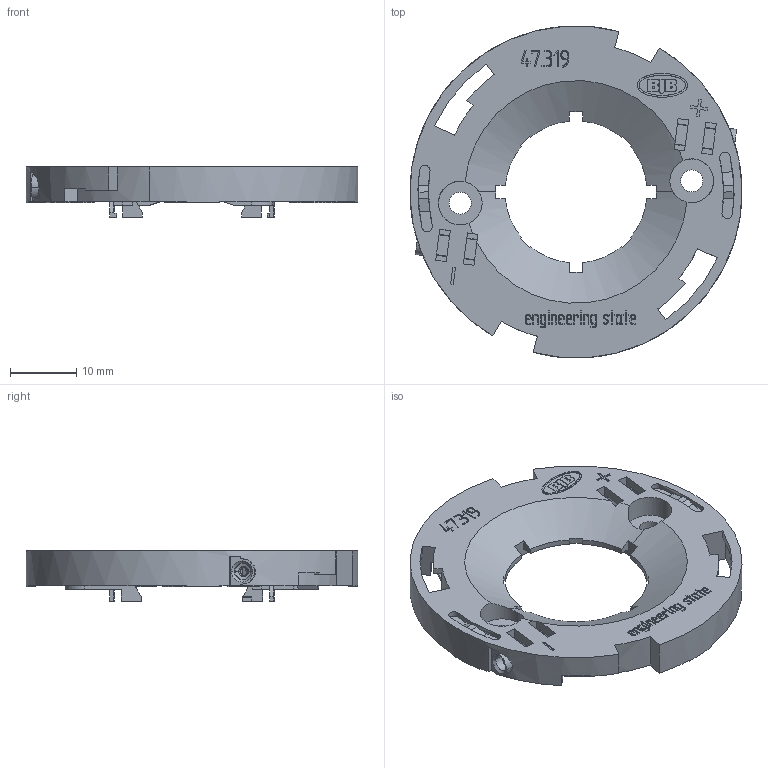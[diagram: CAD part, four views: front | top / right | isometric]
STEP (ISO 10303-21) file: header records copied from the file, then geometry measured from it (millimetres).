
FILE_DESCRIPTION(('CAx-IF Rec.Pracs.---Model Styling and Organization---1.2---2011-12-15','CAx-IF Rec.Pracs.---Geometric and Assembly Validation Properties---4.1---2014-06-16','CAx-IF Rec.Pracs.---PMI Polyline Presentation---2.0---2013-05-24'),'2;1');
FILE_NAME('01TYA5PY07.stp','2016-06-17T06:14:29+02:00',(''),(''),'STEP Interface 4.0 Sp1 by CT CoreTechnologie','3D_Evolution4.0 Sp1 by CT CoreTechnologie','');
FILE_SCHEMA(('AP203_CONFIGURATION_CONTROLLED_3D_DESIGN_OF_MECHANICAL_PARTS_AND_ASSEMBLIES_MIM_LF'));
Length unit declared in the file: metre
Products named in the file (3): 01TYA5PY07; 01T-A5B-03; 01T-A5P-04
Assembly tree (3 placements, depth 2):
  01TYA5PY07
    01T-A5B-03  x2
    01T-A5P-04
Bounding box: 49.98 x 49.97 x 7.65 mm (x, y, z)
Volume: 3846.7 mm3; surface area: 7167.8 mm2
Topology: 3 solids, 3 shells, 855 faces, 2385 edges, 1582 vertices
Faces by surface type: plane 643, cylinder 128, bspline 84
Entity records: 56776 total; most frequent: CARTESIAN_POINT 7279, PROPERTY_DEFINITION 4499, ORIENTED_EDGE 4480, DIRECTION 3916, REPRESENTATION 2254, GENERAL_PROPERTY 2254, PROPERTY_DEFINITION_REPRESENTATION 2254, GENERAL_PROPERTY_ASSOCIATION 2254
